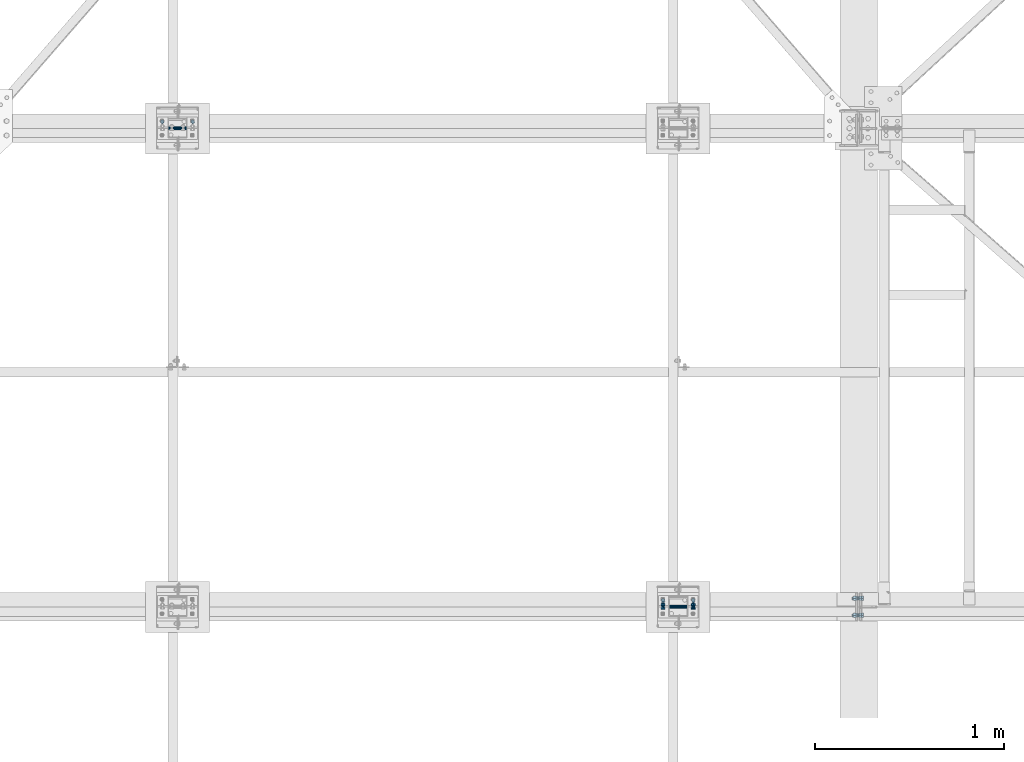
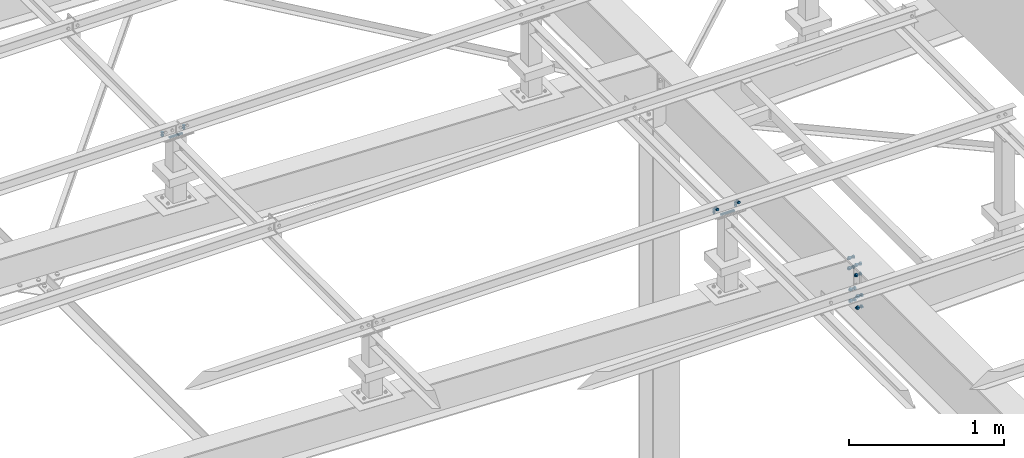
# One storey, part 84 of 3134: 9 mechanical fasteners, 5 elements without a shape of their own.
"""IFC2X3 building model written with IfcOpenShell, lengths in millimetres."""

from ifc_helpers import new_model, si_unit, frame, origin_with_axes, place, context, subcontext, project, spatial, faceted_brep, source, transform, mapped, material, type_object, element, aggregate, save


model = new_model("IFC2X3")

# Units and contexts
model_context = context("Model", 3, precision=1e-05, world=origin_with_axes())
body_context = subcontext(model_context, "Body", "Model", "MODEL_VIEW")
ifc_project = project(units=[si_unit("LENGTHUNIT", "METRE", prefix="MILLI"), si_unit("AREAUNIT", "SQUARE_METRE"), si_unit("VOLUMEUNIT", "CUBIC_METRE"), si_unit("MASSUNIT", "GRAM", prefix="KILO"), si_unit("TIMEUNIT", "SECOND"), si_unit("PLANEANGLEUNIT", "RADIAN"), si_unit("SOLIDANGLEUNIT", "STERADIAN"), si_unit("THERMODYNAMICTEMPERATUREUNIT", "DEGREE_CELSIUS"), si_unit("LUMINOUSINTENSITYUNIT", "LUMEN")], contexts=[model_context])

# Site, building, storey
site_placement = place(None, origin_with_axes())
site = spatial("IfcSite", under=ifc_project, at=site_placement, CompositionType="ELEMENT")
building_placement = place(site_placement, origin_with_axes())
building = spatial("IfcBuilding", under=site, at=building_placement, Name="Undefined", CompositionType="ELEMENT")
storey_placement = place(building_placement, origin_with_axes())
storey = spatial("IfcBuildingStorey", under=building, at=storey_placement, Name="Undefined", CompositionType="ELEMENT", Elevation=0.0)

# Assembly, mechanical fastener
assembly_1_placement = place(storey_placement, origin_with_axes())
assembly_1 = element("IfcElementAssembly", 1, at=assembly_1_placement, inside=storey, AssemblyPlace="NOTDEFINED", PredefinedType="RIGID_FRAME")
ifc_material = material(Name="8.8")
mechanical_fastener_type = type_object("IfcMechanicalFastenerType", Name="Bolt assembly")
shared_shape_1 = source(origin_with_axes(), body_context, "Body", "Brep", [
    faceted_brep([(10.9696551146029, -14.0, 0.0), (5.48482755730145, -14.0, 9.5), (-5.48482755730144, -14.0, 9.5), (-10.9696551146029, -14.0, 1.34339530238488e-15), (-5.48482755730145, -14.0, -9.5), (5.48482755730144, -14.0, -9.50000000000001), (5.48482755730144, -6.0, -9.50000000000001), (-5.48482755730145, -6.0, -9.5), (-10.9696551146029, -6.0, 1.34339530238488e-15), (-5.48482755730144, -6.0, 9.5), (5.48482755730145, -6.0, 9.5), (10.9696551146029, -6.0, 0.0), (6.0, -6.0, 0.0), (5.19615242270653, -6.0, 3.00000000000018), (2.99999999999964, -6.0, 5.19615242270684), (-6.21801588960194e-13, -6.0, 6.0), (-3.00000000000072, -6.0, 5.19615242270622), (-5.19615242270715, -6.0, 2.9999999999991), (-6.0, -6.0, -1.24360317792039e-12), (-5.19615242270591, -6.0, -3.00000000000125), (-2.99999999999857, -6.0, -5.19615242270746), (1.85874342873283e-12, -6.0, -6.0), (3.00000000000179, -6.0, -5.1961524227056), (5.19615242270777, -6.0, -2.99999999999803), (5.19615242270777, 24.0, -2.99999999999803), (3.00000000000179, 24.0, -5.1961524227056), (1.85874342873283e-12, 24.0, -6.0), (-2.99999999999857, 24.0, -5.19615242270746), (-5.19615242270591, 24.0, -3.00000000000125), (-6.0, 24.0, -1.24360317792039e-12), (-5.19615242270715, 24.0, 2.9999999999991), (-3.00000000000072, 24.0, 5.19615242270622), (-6.21801588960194e-13, 24.0, 6.0), (2.99999999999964, 24.0, 5.19615242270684), (5.19615242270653, 24.0, 3.00000000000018), (6.0, 24.0, 0.0), (10.9696551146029, 6.00000000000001, 0.0), (5.48482755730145, 6.00000000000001, 9.5), (-5.48482755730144, 6.00000000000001, 9.5), (-10.9696551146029, 6.00000000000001, 1.34339530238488e-15), (-5.48482755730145, 6.00000000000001, -9.5), (5.48482755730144, 6.00000000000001, -9.50000000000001), (5.48482755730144, 16.0, -9.50000000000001), (-5.48482755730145, 16.0, -9.5), (-10.9696551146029, 16.0, 1.34339530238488e-15), (-5.48482755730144, 16.0, 9.5), (5.48482755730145, 16.0, 9.5), (10.9696551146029, 16.0, 0.0)], [[[0, 1, 2, 3, 4, 5]], [[6, 7, 8, 9, 10, 11]], [[0, 11, 10, 1]], [[1, 10, 9, 2]], [[2, 9, 8, 3]], [[3, 8, 7, 4]], [[4, 7, 6, 5]], [[5, 6, 11, 0]], [[12, 13, 14, 15, 16, 17, 18, 19, 20, 21, 22, 23]], [[24, 25, 26, 27, 28, 29, 30, 31, 32, 33, 34, 35]], [[12, 35, 34, 13]], [[13, 34, 33, 14]], [[14, 33, 32, 15]], [[15, 32, 31, 16]], [[16, 31, 30, 17]], [[17, 30, 29, 18]], [[18, 29, 28, 19]], [[19, 28, 27, 20]], [[20, 27, 26, 21]], [[21, 26, 25, 22]], [[22, 25, 24, 23]], [[23, 24, 35, 12]], [[36, 37, 38, 39, 40, 41]], [[42, 43, 44, 45, 46, 47]], [[36, 47, 46, 37]], [[37, 46, 45, 38]], [[38, 45, 44, 39]], [[39, 44, 43, 40]], [[40, 43, 42, 41]], [[41, 42, 47, 36]]]),
    faceted_brep([(7.0, -0.1, 0.0), (6.06217782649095, -0.1, 3.50000000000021), (3.49999999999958, -0.1, 6.06217782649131), (-7.25435187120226e-13, -0.1, 7.0), (-3.50000000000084, -0.1, 6.06217782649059), (-6.06217782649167, -0.1, 3.49999999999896), (-7.0, -0.1, -1.45087037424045e-12), (-6.06217782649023, -0.1, -3.50000000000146), (-3.49999999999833, -0.1, -6.06217782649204), (2.1685340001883e-12, -0.1, -7.0), (3.50000000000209, -0.1, -6.06217782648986), (6.0621778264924, -0.1, -3.4999999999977), (6.0621778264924, 6.00000000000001, -3.4999999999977), (3.50000000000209, 6.00000000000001, -6.06217782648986), (2.1685340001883e-12, 6.00000000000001, -7.0), (-3.49999999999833, 6.00000000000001, -6.06217782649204), (-6.06217782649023, 6.00000000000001, -3.50000000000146), (-7.0, 6.00000000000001, -1.45087037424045e-12), (-6.06217782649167, 6.00000000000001, 3.49999999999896), (-3.50000000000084, 6.00000000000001, 6.06217782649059), (-7.25435187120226e-13, 6.00000000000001, 7.0), (3.49999999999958, 6.00000000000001, 6.06217782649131), (6.06217782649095, 6.00000000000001, 3.50000000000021), (7.0, 6.00000000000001, 0.0), (7.0, -5.9, 0.0), (6.06217782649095, -5.9, 3.50000000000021), (3.49999999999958, -5.9, 6.06217782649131), (-7.25435187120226e-13, -5.9, 7.0), (-3.50000000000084, -5.9, 6.06217782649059), (-6.06217782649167, -5.9, 3.49999999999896), (-7.0, -5.9, -1.45087037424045e-12), (-6.06217782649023, -5.9, -3.50000000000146), (-3.49999999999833, -5.9, -6.06217782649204), (2.1685340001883e-12, -5.9, -7.0), (3.50000000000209, -5.9, -6.06217782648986), (6.0621778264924, -5.9, -3.4999999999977), (6.0621778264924, 0.0999999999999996, -3.4999999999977), (3.50000000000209, 0.0999999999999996, -6.06217782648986), (2.1685340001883e-12, 0.0999999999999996, -7.0), (-3.49999999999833, 0.0999999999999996, -6.06217782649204), (-6.06217782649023, 0.0999999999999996, -3.50000000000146), (-7.0, 0.0999999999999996, -1.45087037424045e-12), (-6.06217782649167, 0.0999999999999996, 3.49999999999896), (-3.50000000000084, 0.0999999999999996, 6.06217782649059), (-7.25435187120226e-13, 0.0999999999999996, 7.0), (3.49999999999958, 0.0999999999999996, 6.06217782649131), (6.06217782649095, 0.0999999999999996, 3.50000000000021), (7.0, 0.0999999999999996, 0.0)], [[[0, 1, 2, 3, 4, 5, 6, 7, 8, 9, 10, 11]], [[12, 13, 14, 15, 16, 17, 18, 19, 20, 21, 22, 23]], [[0, 23, 22, 1]], [[1, 22, 21, 2]], [[2, 21, 20, 3]], [[3, 20, 19, 4]], [[4, 19, 18, 5]], [[5, 18, 17, 6]], [[6, 17, 16, 7]], [[7, 16, 15, 8]], [[8, 15, 14, 9]], [[9, 14, 13, 10]], [[10, 13, 12, 11]], [[11, 12, 23, 0]], [[24, 25, 26, 27, 28, 29, 30, 31, 32, 33, 34, 35]], [[36, 37, 38, 39, 40, 41, 42, 43, 44, 45, 46, 47]], [[24, 47, 46, 25]], [[25, 46, 45, 26]], [[26, 45, 44, 27]], [[27, 44, 43, 28]], [[28, 43, 42, 29]], [[29, 42, 41, 30]], [[30, 41, 40, 31]], [[31, 40, 39, 32]], [[32, 39, 38, 33]], [[33, 38, 37, 34]], [[34, 37, 36, 35]], [[35, 36, 47, 24]]]),
])
mechanical_fastener_1_placement = place(assembly_1_placement, frame((5691.67, 29610.0, 4365.0), z_axis=(1.0, 0.0, 0.0), x_axis=(0.0, -1.0, 0.0)))
mechanical_fastener_1 = element("IfcMechanicalFastener", 2, at=mechanical_fastener_1_placement, type_object=mechanical_fastener_type, material=ifc_material, Name="Bolt assembly", NominalDiameter=12.0, NominalLength=30.0, context=body_context, shape_type="MappedRepresentation", body=[
    mapped(shared_shape_1, transform((0.0, -5.32963895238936e-10, -79.9999999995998))),
    mapped(shared_shape_1, transform((0.0, 5.3114490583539e-10, 79.9999999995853))),
])
aggregate(assembly_1, [mechanical_fastener_1])

assembly_2_placement = place(storey_placement, origin_with_axes())
assembly_2 = element("IfcElementAssembly", 3, at=assembly_2_placement, inside=storey, AssemblyPlace="NOTDEFINED", PredefinedType="RIGID_FRAME")
mechanical_fastener_2_placement = place(assembly_2_placement, frame((8340.0, 27078.75, 4365.0), z_axis=(1.0, 0.0, 0.0), x_axis=(0.0, -1.0, 0.0)))
mechanical_fastener_2 = element("IfcMechanicalFastener", 4, at=mechanical_fastener_2_placement, type_object=mechanical_fastener_type, material=ifc_material, Name="Bolt assembly", NominalDiameter=12.0, NominalLength=30.0, context=body_context, shape_type="MappedRepresentation", body=[
    mapped(shared_shape_1, transform((0.0, -5.32963895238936e-10, -79.9999999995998))),
    mapped(shared_shape_1, transform((0.0, 5.3114490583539e-10, 79.9999999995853))),
])

# Assembly, mechanical fasteners
assembly_3_placement = place(storey_placement, origin_with_axes())
assembly_3 = element("IfcElementAssembly", 5, at=assembly_3_placement, inside=storey, Name="IPE500", AssemblyPlace="NOTDEFINED", PredefinedType="RIGID_FRAME")
shared_shape_2 = source(origin_with_axes(), body_context, "Body", "Brep", [
    faceted_brep([(13.856406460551, 0.0, 0.0), (6.92820323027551, 0.0, 12.0), (-6.92820323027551, 0.0, 12.0), (-13.856406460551, 0.0, 1.69692038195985e-15), (-6.92820323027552, 0.0, -12.0), (6.9282032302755, 0.0, -12.0), (6.9282032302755, 9.99999995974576, -12.0), (-6.92820323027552, 9.99999995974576, -12.0), (-13.856406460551, 9.99999995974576, 1.69692038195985e-15), (-6.92820323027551, 9.99999995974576, 12.0), (6.92820323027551, 9.99999995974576, 12.0), (13.856406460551, 9.99999995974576, 0.0), (8.0, 9.99999995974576, 0.0), (6.92820323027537, 9.99999995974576, 4.00000000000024), (3.99999999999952, 9.99999995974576, 6.92820323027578), (-8.29068785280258e-13, 9.99999995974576, 8.0), (-4.00000000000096, 9.99999995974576, 6.92820323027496), (-6.9282032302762, 9.99999995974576, 3.99999999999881), (-8.0, 9.99999995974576, -1.65813757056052e-12), (-6.92820323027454, 9.99999995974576, -4.00000000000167), (-3.99999999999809, 9.99999995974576, -6.92820323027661), (2.47832457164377e-12, 9.99999995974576, -8.0), (4.00000000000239, 9.99999995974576, -6.92820323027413), (6.92820323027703, 9.99999995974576, -3.99999999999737), (6.92820323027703, 49.9999999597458, -3.99999999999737), (4.00000000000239, 49.9999999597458, -6.92820323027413), (2.47832457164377e-12, 49.9999999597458, -8.0), (-3.99999999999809, 49.9999999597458, -6.92820323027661), (-6.92820323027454, 49.9999999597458, -4.00000000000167), (-8.0, 49.9999999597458, -1.65813757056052e-12), (-6.9282032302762, 49.9999999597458, 3.99999999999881), (-4.00000000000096, 49.9999999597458, 6.92820323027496), (-8.29068785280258e-13, 49.9999999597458, 8.0), (3.99999999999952, 49.9999999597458, 6.92820323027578), (6.92820323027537, 49.9999999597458, 4.00000000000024), (8.0, 49.9999999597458, 0.0), (13.856406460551, 30.1999997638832, 0.0), (6.92820323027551, 30.1999997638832, 12.0), (-6.92820323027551, 30.1999997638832, 12.0), (-13.856406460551, 30.1999997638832, 1.69692038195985e-15), (-6.92820323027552, 30.1999997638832, -12.0), (6.9282032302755, 30.1999997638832, -12.0), (6.9282032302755, 43.1999997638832, -12.0), (-6.92820323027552, 43.1999997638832, -12.0), (-13.856406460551, 43.1999997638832, 1.69692038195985e-15), (-6.92820323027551, 43.1999997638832, 12.0), (6.92820323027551, 43.1999997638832, 12.0), (13.856406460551, 43.1999997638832, 0.0)], [[[0, 1, 2, 3, 4, 5]], [[6, 7, 8, 9, 10, 11]], [[0, 11, 10, 1]], [[1, 10, 9, 2]], [[2, 9, 8, 3]], [[3, 8, 7, 4]], [[4, 7, 6, 5]], [[5, 6, 11, 0]], [[12, 13, 14, 15, 16, 17, 18, 19, 20, 21, 22, 23]], [[24, 25, 26, 27, 28, 29, 30, 31, 32, 33, 34, 35]], [[12, 35, 34, 13]], [[13, 34, 33, 14]], [[14, 33, 32, 15]], [[15, 32, 31, 16]], [[16, 31, 30, 17]], [[17, 30, 29, 18]], [[18, 29, 28, 19]], [[19, 28, 27, 20]], [[20, 27, 26, 21]], [[21, 26, 25, 22]], [[22, 25, 24, 23]], [[23, 24, 35, 12]], [[36, 37, 38, 39, 40, 41]], [[42, 43, 44, 45, 46, 47]], [[36, 47, 46, 37]], [[37, 46, 45, 38]], [[38, 45, 44, 39]], [[39, 44, 43, 40]], [[40, 43, 42, 41]], [[41, 42, 47, 36]]]),
    faceted_brep([(9.0, 20.0999997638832, 0.0), (7.79422863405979, 20.0999997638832, 4.50000000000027), (4.49999999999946, 20.0999997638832, 7.79422863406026), (-9.3270238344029e-13, 20.0999997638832, 9.0), (-4.50000000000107, 20.0999997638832, 7.79422863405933), (-7.79422863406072, 20.0999997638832, 4.49999999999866), (-9.0, 20.0999997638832, -1.86540476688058e-12), (-7.79422863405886, 20.0999997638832, -4.50000000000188), (-4.49999999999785, 20.0999997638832, -7.79422863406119), (2.78811514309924e-12, 20.0999997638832, -9.0), (4.50000000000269, 20.0999997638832, -7.7942286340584), (7.79422863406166, 20.0999997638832, -4.49999999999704), (7.79422863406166, 30.1999997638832, -4.49999999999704), (4.50000000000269, 30.1999997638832, -7.7942286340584), (2.78811514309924e-12, 30.1999997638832, -9.0), (-4.49999999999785, 30.1999997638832, -7.79422863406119), (-7.79422863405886, 30.1999997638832, -4.50000000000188), (-9.0, 30.1999997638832, -1.86540476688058e-12), (-7.79422863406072, 30.1999997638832, 4.49999999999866), (-4.50000000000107, 30.1999997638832, 7.79422863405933), (-9.3270238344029e-13, 30.1999997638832, 9.0), (4.49999999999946, 30.1999997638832, 7.79422863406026), (7.79422863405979, 30.1999997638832, 4.50000000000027), (9.0, 30.1999997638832, 0.0), (9.0, 10.1000023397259, 0.0), (7.79422863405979, 10.1000023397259, 4.50000000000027), (4.49999999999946, 10.1000023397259, 7.79422863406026), (-9.3270238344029e-13, 10.1000023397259, 9.0), (-4.50000000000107, 10.1000023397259, 7.79422863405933), (-7.79422863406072, 10.1000023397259, 4.49999999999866), (-9.0, 10.1000023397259, -1.86540476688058e-12), (-7.79422863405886, 10.1000023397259, -4.50000000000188), (-4.49999999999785, 10.1000023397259, -7.79422863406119), (2.78811514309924e-12, 10.1000023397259, -9.0), (4.50000000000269, 10.1000023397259, -7.7942286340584), (7.79422863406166, 10.1000023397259, -4.49999999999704), (7.79422863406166, 20.2999997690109, -4.49999999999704), (4.50000000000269, 20.2999997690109, -7.7942286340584), (2.78811514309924e-12, 20.2999997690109, -9.0), (-4.49999999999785, 20.2999997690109, -7.79422863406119), (-7.79422863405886, 20.2999997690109, -4.50000000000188), (-9.0, 20.2999997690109, -1.86540476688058e-12), (-7.79422863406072, 20.2999997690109, 4.49999999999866), (-4.50000000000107, 20.2999997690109, 7.79422863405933), (-9.3270238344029e-13, 20.2999997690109, 9.0), (4.49999999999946, 20.2999997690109, 7.79422863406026), (7.79422863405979, 20.2999997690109, 4.50000000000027), (9.0, 20.2999997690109, 0.0)], [[[0, 1, 2, 3, 4, 5, 6, 7, 8, 9, 10, 11]], [[12, 13, 14, 15, 16, 17, 18, 19, 20, 21, 22, 23]], [[0, 23, 22, 1]], [[1, 22, 21, 2]], [[2, 21, 20, 3]], [[3, 20, 19, 4]], [[4, 19, 18, 5]], [[5, 18, 17, 6]], [[6, 17, 16, 7]], [[7, 16, 15, 8]], [[8, 15, 14, 9]], [[9, 14, 13, 10]], [[10, 13, 12, 11]], [[11, 12, 23, 0]], [[24, 25, 26, 27, 28, 29, 30, 31, 32, 33, 34, 35]], [[36, 37, 38, 39, 40, 41, 42, 43, 44, 45, 46, 47]], [[24, 47, 46, 25]], [[25, 46, 45, 26]], [[26, 45, 44, 27]], [[27, 44, 43, 28]], [[28, 43, 42, 29]], [[29, 42, 41, 30]], [[30, 41, 40, 31]], [[31, 40, 39, 32]], [[32, 39, 38, 33]], [[33, 38, 37, 34]], [[34, 37, 36, 35]], [[35, 36, 47, 24]]]),
])
mechanical_fastener_3_placement = place(assembly_3_placement, frame((9310.09999986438, 26998.75, 3631.67000001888), z_axis=(0.0, 1.0, 0.0), x_axis=(0.0, 0.0, -1.0)))
mechanical_fastener_3 = element("IfcMechanicalFastener", 6, at=mechanical_fastener_3_placement, type_object=mechanical_fastener_type, material=ifc_material, Name="Bolt assembly", NominalDiameter=16.0, NominalLength=40.0, context=body_context, shape_type="MappedRepresentation", body=[
    mapped(shared_shape_2, transform((0.0, 0.0, 0.0))),
    mapped(shared_shape_2, transform((80.0, 0.0, 0.0))),
])
mechanical_fastener_4_placement = place(assembly_3_placement, frame((9310.09999986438, 27088.75, 3631.67000001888), z_axis=(0.0, 1.0, 0.0), x_axis=(0.0, 0.0, -1.0)))
mechanical_fastener_4 = element("IfcMechanicalFastener", 7, at=mechanical_fastener_4_placement, type_object=mechanical_fastener_type, material=ifc_material, Name="Bolt assembly", NominalDiameter=16.0, NominalLength=40.0, context=body_context, shape_type="MappedRepresentation", body=[
    mapped(shared_shape_2, transform((0.0, 0.0, 0.0))),
    mapped(shared_shape_2, transform((80.0, 0.0, 0.0))),
])
shared_shape_3 = source(origin_with_axes(), body_context, "Body", "Brep", [
    faceted_brep([(13.856406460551, -10.0, 0.0), (6.92820323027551, -10.0, 12.0), (-6.92820323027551, -10.0, 12.0), (-13.856406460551, -10.0, 1.69692038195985e-15), (-6.92820323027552, -10.0, -12.0), (6.9282032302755, -10.0, -12.0), (6.9282032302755, 0.0, -12.0), (-6.92820323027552, 0.0, -12.0), (-13.856406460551, 0.0, 1.69692038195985e-15), (-6.92820323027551, 0.0, 12.0), (6.92820323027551, 0.0, 12.0), (13.856406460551, 0.0, 0.0), (8.0, 0.0, 0.0), (6.92820323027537, 0.0, 4.00000000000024), (3.99999999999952, 0.0, 6.92820323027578), (-8.29068785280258e-13, 0.0, 8.0), (-4.00000000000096, 0.0, 6.92820323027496), (-6.9282032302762, 0.0, 3.99999999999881), (-8.0, 0.0, -1.65813757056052e-12), (-6.92820323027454, 0.0, -4.00000000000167), (-3.99999999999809, 0.0, -6.92820323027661), (2.47832457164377e-12, 0.0, -8.0), (4.00000000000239, 0.0, -6.92820323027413), (6.92820323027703, 0.0, -3.99999999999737), (6.92820323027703, 40.0, -3.99999999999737), (4.00000000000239, 40.0, -6.92820323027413), (2.47832457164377e-12, 40.0, -8.0), (-3.99999999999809, 40.0, -6.92820323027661), (-6.92820323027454, 40.0, -4.00000000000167), (-8.0, 40.0, -1.65813757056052e-12), (-6.9282032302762, 40.0, 3.99999999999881), (-4.00000000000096, 40.0, 6.92820323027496), (-8.29068785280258e-13, 40.0, 8.0), (3.99999999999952, 40.0, 6.92820323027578), (6.92820323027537, 40.0, 4.00000000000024), (8.0, 40.0, 0.0), (13.856406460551, 20.1999997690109, 0.0), (6.92820323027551, 20.1999997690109, 12.0), (-6.92820323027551, 20.1999997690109, 12.0), (-13.856406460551, 20.1999997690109, 1.69692038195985e-15), (-6.92820323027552, 20.1999997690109, -12.0), (6.9282032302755, 20.1999997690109, -12.0), (6.9282032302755, 33.1999997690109, -12.0), (-6.92820323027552, 33.1999997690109, -12.0), (-13.856406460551, 33.1999997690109, 1.69692038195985e-15), (-6.92820323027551, 33.1999997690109, 12.0), (6.92820323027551, 33.1999997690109, 12.0), (13.856406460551, 33.1999997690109, 0.0)], [[[0, 1, 2, 3, 4, 5]], [[6, 7, 8, 9, 10, 11]], [[0, 11, 10, 1]], [[1, 10, 9, 2]], [[2, 9, 8, 3]], [[3, 8, 7, 4]], [[4, 7, 6, 5]], [[5, 6, 11, 0]], [[12, 13, 14, 15, 16, 17, 18, 19, 20, 21, 22, 23]], [[24, 25, 26, 27, 28, 29, 30, 31, 32, 33, 34, 35]], [[12, 35, 34, 13]], [[13, 34, 33, 14]], [[14, 33, 32, 15]], [[15, 32, 31, 16]], [[16, 31, 30, 17]], [[17, 30, 29, 18]], [[18, 29, 28, 19]], [[19, 28, 27, 20]], [[20, 27, 26, 21]], [[21, 26, 25, 22]], [[22, 25, 24, 23]], [[23, 24, 35, 12]], [[36, 37, 38, 39, 40, 41]], [[42, 43, 44, 45, 46, 47]], [[36, 47, 46, 37]], [[37, 46, 45, 38]], [[38, 45, 44, 39]], [[39, 44, 43, 40]], [[40, 43, 42, 41]], [[41, 42, 47, 36]]]),
    faceted_brep([(9.0, 0.100000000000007, 0.0), (7.79422863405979, 0.100000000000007, 4.50000000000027), (4.49999999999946, 0.100000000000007, 7.79422863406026), (-9.3270238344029e-13, 0.100000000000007, 9.0), (-4.50000000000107, 0.100000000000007, 7.79422863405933), (-7.79422863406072, 0.100000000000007, 4.49999999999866), (-9.0, 0.100000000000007, -1.86540476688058e-12), (-7.79422863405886, 0.100000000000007, -4.50000000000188), (-4.49999999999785, 0.100000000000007, -7.79422863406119), (2.78811514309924e-12, 0.100000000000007, -9.0), (4.50000000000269, 0.100000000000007, -7.7942286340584), (7.79422863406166, 0.100000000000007, -4.49999999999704), (7.79422863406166, 10.1000023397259, -4.49999999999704), (4.50000000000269, 10.1000023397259, -7.7942286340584), (2.78811514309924e-12, 10.1000023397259, -9.0), (-4.49999999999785, 10.1000023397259, -7.79422863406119), (-7.79422863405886, 10.1000023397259, -4.50000000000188), (-9.0, 10.1000023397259, -1.86540476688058e-12), (-7.79422863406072, 10.1000023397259, 4.49999999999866), (-4.50000000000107, 10.1000023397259, 7.79422863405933), (-9.3270238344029e-13, 10.1000023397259, 9.0), (4.49999999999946, 10.1000023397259, 7.79422863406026), (7.79422863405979, 10.1000023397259, 4.50000000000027), (9.0, 10.1000023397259, 0.0), (9.0, 9.89999999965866, 0.0), (7.79422863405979, 9.89999999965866, 4.50000000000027), (4.49999999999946, 9.89999999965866, 7.79422863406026), (-9.3270238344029e-13, 9.89999999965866, 9.0), (-4.50000000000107, 9.89999999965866, 7.79422863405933), (-7.79422863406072, 9.89999999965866, 4.49999999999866), (-9.0, 9.89999999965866, -1.86540476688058e-12), (-7.79422863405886, 9.89999999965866, -4.50000000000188), (-4.49999999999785, 9.89999999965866, -7.79422863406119), (2.78811514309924e-12, 9.89999999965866, -9.0), (4.50000000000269, 9.89999999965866, -7.7942286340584), (7.79422863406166, 9.89999999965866, -4.49999999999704), (7.79422863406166, 20.1999997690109, -4.49999999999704), (4.50000000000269, 20.1999997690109, -7.7942286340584), (2.78811514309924e-12, 20.1999997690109, -9.0), (-4.49999999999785, 20.1999997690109, -7.79422863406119), (-7.79422863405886, 20.1999997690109, -4.50000000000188), (-9.0, 20.1999997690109, -1.86540476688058e-12), (-7.79422863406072, 20.1999997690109, 4.49999999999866), (-4.50000000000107, 20.1999997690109, 7.79422863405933), (-9.3270238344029e-13, 20.1999997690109, 9.0), (4.49999999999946, 20.1999997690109, 7.79422863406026), (7.79422863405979, 20.1999997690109, 4.50000000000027), (9.0, 20.1999997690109, 0.0)], [[[0, 1, 2, 3, 4, 5, 6, 7, 8, 9, 10, 11]], [[12, 13, 14, 15, 16, 17, 18, 19, 20, 21, 22, 23]], [[0, 23, 22, 1]], [[1, 22, 21, 2]], [[2, 21, 20, 3]], [[3, 20, 19, 4]], [[4, 19, 18, 5]], [[5, 18, 17, 6]], [[6, 17, 16, 7]], [[7, 16, 15, 8]], [[8, 15, 14, 9]], [[9, 14, 13, 10]], [[10, 13, 12, 11]], [[11, 12, 23, 0]], [[24, 25, 26, 27, 28, 29, 30, 31, 32, 33, 34, 35]], [[36, 37, 38, 39, 40, 41, 42, 43, 44, 45, 46, 47]], [[24, 47, 46, 25]], [[25, 46, 45, 26]], [[26, 45, 44, 27]], [[27, 44, 43, 28]], [[28, 43, 42, 29]], [[29, 42, 41, 30]], [[30, 41, 40, 31]], [[31, 40, 39, 32]], [[32, 39, 38, 33]], [[33, 38, 37, 34]], [[34, 37, 36, 35]], [[35, 36, 47, 24]]]),
])
mechanical_fastener_5_placement = place(assembly_3_placement, frame((9310.09999986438, 26998.75, 3381.67000001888), z_axis=(0.0, 1.0, 0.0), x_axis=(0.0, 0.0, -1.0)))
mechanical_fastener_5 = element("IfcMechanicalFastener", 8, at=mechanical_fastener_5_placement, type_object=mechanical_fastener_type, material=ifc_material, Name="Bolt assembly", NominalDiameter=16.0, NominalLength=40.0, context=body_context, shape_type="MappedRepresentation", body=[
    mapped(shared_shape_3, transform((0.0, 0.0, 0.0))),
    mapped(shared_shape_3, transform((90.0, 0.0, 0.0))),
])
mechanical_fastener_6_placement = place(assembly_3_placement, frame((9310.09999986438, 27088.75, 3381.67000001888), z_axis=(0.0, 1.0, 0.0), x_axis=(0.0, 0.0, -1.0)))
mechanical_fastener_6 = element("IfcMechanicalFastener", 9, at=mechanical_fastener_6_placement, type_object=mechanical_fastener_type, material=ifc_material, Name="Bolt assembly", NominalDiameter=16.0, NominalLength=40.0, context=body_context, shape_type="MappedRepresentation", body=[
    mapped(shared_shape_3, transform((0.0, 0.0, 0.0))),
    mapped(shared_shape_3, transform((90.0, 0.0, 0.0))),
])
aggregate(assembly_3, [mechanical_fastener_3, mechanical_fastener_4, mechanical_fastener_5, mechanical_fastener_6])

# Assembly, mechanical fastener
assembly_4_placement = place(storey_placement, origin_with_axes())
assembly_4 = element("IfcElementAssembly", 10, at=assembly_4_placement, inside=storey, AssemblyPlace="NOTDEFINED", PredefinedType="RIGID_FRAME")
shared_shape_4 = source(origin_with_axes(), body_context, "Body", "Brep", [
    faceted_brep([(9.0, -50.0, 0.0), (7.79422863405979, -50.0, 4.50000000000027), (4.49999999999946, -50.0, 7.79422863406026), (-9.3270238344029e-13, -50.0, 9.0), (-4.50000000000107, -50.0, 7.79422863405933), (-7.79422863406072, -50.0, 4.49999999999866), (-9.0, -50.0, -1.86540476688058e-12), (-7.79422863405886, -50.0, -4.50000000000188), (-4.49999999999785, -50.0, -7.79422863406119), (2.78811514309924e-12, -50.0, -9.0), (4.50000000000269, -50.0, -7.7942286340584), (7.79422863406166, -50.0, -4.49999999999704), (7.79422863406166, 50.1, -4.49999999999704), (4.50000000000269, 50.1, -7.7942286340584), (2.78811514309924e-12, 50.1, -9.0), (-4.49999999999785, 50.1, -7.79422863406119), (-7.79422863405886, 50.1, -4.50000000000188), (-9.0, 50.1, -1.86540476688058e-12), (-7.79422863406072, 50.1, 4.49999999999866), (-4.50000000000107, 50.1, 7.79422863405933), (-9.3270238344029e-13, 50.1, 9.0), (4.49999999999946, 50.1, 7.79422863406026), (7.79422863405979, 50.1, 4.50000000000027), (9.0, 50.1, 0.0)], [[[0, 1, 2, 3, 4, 5, 6, 7, 8, 9, 10, 11]], [[12, 13, 14, 15, 16, 17, 18, 19, 20, 21, 22, 23]], [[0, 23, 22, 1]], [[1, 22, 21, 2]], [[2, 21, 20, 3]], [[3, 20, 19, 4]], [[4, 19, 18, 5]], [[5, 18, 17, 6]], [[6, 17, 16, 7]], [[7, 16, 15, 8]], [[8, 15, 14, 9]], [[9, 14, 13, 10]], [[10, 13, 12, 11]], [[11, 12, 23, 0]]]),
])
mechanical_fastener_7_placement = place(assembly_4_placement, frame((5691.67, 29575.0, 4345.0), z_axis=(0.0, 1.0, 0.0), x_axis=(0.0, 0.0, 1.0)))
mechanical_fastener_7 = element("IfcMechanicalFastener", 11, at=mechanical_fastener_7_placement, type_object=mechanical_fastener_type, material=ifc_material, Name="Bolt assembly", NominalDiameter=16.0, NominalLength=100.0, context=body_context, shape_type="MappedRepresentation", body=[
    mapped(shared_shape_4, transform((0.0, 0.0, 0.0))),
])
aggregate(assembly_4, [mechanical_fastener_7])

assembly_5_placement = place(storey_placement, origin_with_axes())
assembly_5 = element("IfcElementAssembly", 12, at=assembly_5_placement, inside=storey, AssemblyPlace="NOTDEFINED", PredefinedType="RIGID_FRAME")
mechanical_fastener_8_placement = place(assembly_5_placement, frame((8340.0, 27043.75, 4345.0), z_axis=(0.0, 1.0, 0.0), x_axis=(0.0, 0.0, 1.0)))
mechanical_fastener_8 = element("IfcMechanicalFastener", 13, at=mechanical_fastener_8_placement, type_object=mechanical_fastener_type, material=ifc_material, Name="Bolt assembly", NominalDiameter=16.0, NominalLength=100.0, context=body_context, shape_type="MappedRepresentation", body=[
    mapped(shared_shape_4, transform((0.0, 0.0, 0.0))),
])
aggregate(assembly_5, [mechanical_fastener_8])

# Mechanical fastener
shared_shape_5 = source(origin_with_axes(), body_context, "Body", "Brep", [
    faceted_brep([(10.9696551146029, -12.0, 0.0), (5.48482755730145, -12.0, 9.5), (-5.48482755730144, -12.0, 9.5), (-10.9696551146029, -12.0, 1.34339530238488e-15), (-5.48482755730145, -12.0, -9.5), (5.48482755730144, -12.0, -9.50000000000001), (5.48482755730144, -4.0, -9.50000000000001), (-5.48482755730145, -4.0, -9.5), (-10.9696551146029, -4.0, 1.34339530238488e-15), (-5.48482755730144, -4.0, 9.5), (5.48482755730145, -4.0, 9.5), (10.9696551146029, -4.0, 0.0), (6.0, -4.0, 0.0), (5.19615242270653, -4.0, 3.00000000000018), (2.99999999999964, -4.0, 5.19615242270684), (-6.21801588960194e-13, -4.0, 6.0), (-3.00000000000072, -4.0, 5.19615242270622), (-5.19615242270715, -4.0, 2.9999999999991), (-6.0, -4.0, -1.24360317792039e-12), (-5.19615242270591, -4.0, -3.00000000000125), (-2.99999999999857, -4.0, -5.19615242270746), (1.85874342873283e-12, -4.0, -6.0), (3.00000000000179, -4.0, -5.1961524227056), (5.19615242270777, -4.0, -2.99999999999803), (5.19615242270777, 21.0, -2.99999999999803), (3.00000000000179, 21.0, -5.1961524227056), (1.85874342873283e-12, 21.0, -6.0), (-2.99999999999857, 21.0, -5.19615242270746), (-5.19615242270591, 21.0, -3.00000000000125), (-6.0, 21.0, -1.24360317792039e-12), (-5.19615242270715, 21.0, 2.9999999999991), (-3.00000000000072, 21.0, 5.19615242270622), (-6.21801588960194e-13, 21.0, 6.0), (2.99999999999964, 21.0, 5.19615242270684), (5.19615242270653, 21.0, 3.00000000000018), (6.0, 21.0, 0.0), (10.9696551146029, 6.00000000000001, 0.0), (5.48482755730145, 6.00000000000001, 9.5), (-5.48482755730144, 6.00000000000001, 9.5), (-10.9696551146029, 6.00000000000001, 1.34339530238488e-15), (-5.48482755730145, 6.00000000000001, -9.5), (5.48482755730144, 6.00000000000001, -9.50000000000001), (5.48482755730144, 16.0, -9.50000000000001), (-5.48482755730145, 16.0, -9.5), (-10.9696551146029, 16.0, 1.34339530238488e-15), (-5.48482755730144, 16.0, 9.5), (5.48482755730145, 16.0, 9.5), (10.9696551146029, 16.0, 0.0)], [[[0, 1, 2, 3, 4, 5]], [[6, 7, 8, 9, 10, 11]], [[0, 11, 10, 1]], [[1, 10, 9, 2]], [[2, 9, 8, 3]], [[3, 8, 7, 4]], [[4, 7, 6, 5]], [[5, 6, 11, 0]], [[12, 13, 14, 15, 16, 17, 18, 19, 20, 21, 22, 23]], [[24, 25, 26, 27, 28, 29, 30, 31, 32, 33, 34, 35]], [[12, 35, 34, 13]], [[13, 34, 33, 14]], [[14, 33, 32, 15]], [[15, 32, 31, 16]], [[16, 31, 30, 17]], [[17, 30, 29, 18]], [[18, 29, 28, 19]], [[19, 28, 27, 20]], [[20, 27, 26, 21]], [[21, 26, 25, 22]], [[22, 25, 24, 23]], [[23, 24, 35, 12]], [[36, 37, 38, 39, 40, 41]], [[42, 43, 44, 45, 46, 47]], [[36, 47, 46, 37]], [[37, 46, 45, 38]], [[38, 45, 44, 39]], [[39, 44, 43, 40]], [[40, 43, 42, 41]], [[41, 42, 47, 36]]]),
    faceted_brep([(7.0, -3.9, 0.0), (6.06217782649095, -3.9, 3.50000000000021), (3.49999999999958, -3.9, 6.06217782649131), (-7.25435187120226e-13, -3.9, 7.0), (-3.50000000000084, -3.9, 6.06217782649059), (-6.06217782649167, -3.9, 3.49999999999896), (-7.0, -3.9, -1.45087037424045e-12), (-6.06217782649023, -3.9, -3.50000000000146), (-3.49999999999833, -3.9, -6.06217782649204), (2.1685340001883e-12, -3.9, -7.0), (3.50000000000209, -3.9, -6.06217782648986), (6.0621778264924, -3.9, -3.4999999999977), (6.0621778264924, 0.0999999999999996, -3.4999999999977), (3.50000000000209, 0.0999999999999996, -6.06217782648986), (2.1685340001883e-12, 0.0999999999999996, -7.0), (-3.49999999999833, 0.0999999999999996, -6.06217782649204), (-6.06217782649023, 0.0999999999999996, -3.50000000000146), (-7.0, 0.0999999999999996, -1.45087037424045e-12), (-6.06217782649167, 0.0999999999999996, 3.49999999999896), (-3.50000000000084, 0.0999999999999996, 6.06217782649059), (-7.25435187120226e-13, 0.0999999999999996, 7.0), (3.49999999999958, 0.0999999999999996, 6.06217782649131), (6.06217782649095, 0.0999999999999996, 3.50000000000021), (7.0, 0.0999999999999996, 0.0), (7.0, -0.1, 0.0), (6.06217782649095, -0.1, 3.50000000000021), (3.49999999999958, -0.1, 6.06217782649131), (-7.25435187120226e-13, -0.1, 7.0), (-3.50000000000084, -0.1, 6.06217782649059), (-6.06217782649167, -0.1, 3.49999999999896), (-7.0, -0.1, -1.45087037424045e-12), (-6.06217782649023, -0.1, -3.50000000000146), (-3.49999999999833, -0.1, -6.06217782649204), (2.1685340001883e-12, -0.1, -7.0), (3.50000000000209, -0.1, -6.06217782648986), (6.0621778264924, -0.1, -3.4999999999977), (6.0621778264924, 6.00000000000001, -3.4999999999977), (3.50000000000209, 6.00000000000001, -6.06217782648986), (2.1685340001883e-12, 6.00000000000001, -7.0), (-3.49999999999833, 6.00000000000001, -6.06217782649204), (-6.06217782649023, 6.00000000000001, -3.50000000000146), (-7.0, 6.00000000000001, -1.45087037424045e-12), (-6.06217782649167, 6.00000000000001, 3.49999999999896), (-3.50000000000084, 6.00000000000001, 6.06217782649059), (-7.25435187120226e-13, 6.00000000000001, 7.0), (3.49999999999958, 6.00000000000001, 6.06217782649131), (6.06217782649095, 6.00000000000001, 3.50000000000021), (7.0, 6.00000000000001, 0.0)], [[[0, 1, 2, 3, 4, 5, 6, 7, 8, 9, 10, 11]], [[12, 13, 14, 15, 16, 17, 18, 19, 20, 21, 22, 23]], [[0, 23, 22, 1]], [[1, 22, 21, 2]], [[2, 21, 20, 3]], [[3, 20, 19, 4]], [[4, 19, 18, 5]], [[5, 18, 17, 6]], [[6, 17, 16, 7]], [[7, 16, 15, 8]], [[8, 15, 14, 9]], [[9, 14, 13, 10]], [[10, 13, 12, 11]], [[11, 12, 23, 0]], [[24, 25, 26, 27, 28, 29, 30, 31, 32, 33, 34, 35]], [[36, 37, 38, 39, 40, 41, 42, 43, 44, 45, 46, 47]], [[24, 47, 46, 25]], [[25, 46, 45, 26]], [[26, 45, 44, 27]], [[27, 44, 43, 28]], [[28, 43, 42, 29]], [[29, 42, 41, 30]], [[30, 41, 40, 31]], [[31, 40, 39, 32]], [[32, 39, 38, 33]], [[33, 38, 37, 34]], [[34, 37, 36, 35]], [[35, 36, 47, 24]]]),
])
mechanical_fastener_9_placement = place(assembly_2_placement, frame((8340.0, 27043.75, 4400.0), z_axis=(1.0, 0.0, 0.0), x_axis=(0.0, 0.0, -1.0)))
mechanical_fastener_9 = element("IfcMechanicalFastener", 14, at=mechanical_fastener_9_placement, type_object=mechanical_fastener_type, material=ifc_material, Name="Bolt assembly", NominalDiameter=12.0, NominalLength=25.0, context=body_context, shape_type="MappedRepresentation", body=[
    mapped(shared_shape_5, transform((0.0, -5.32963895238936e-10, -79.9999999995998))),
    mapped(shared_shape_5, transform((0.0, 5.3114490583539e-10, 79.9999999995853))),
])

aggregate(assembly_2, [mechanical_fastener_2, mechanical_fastener_9])

save(model, "model.ifc")
